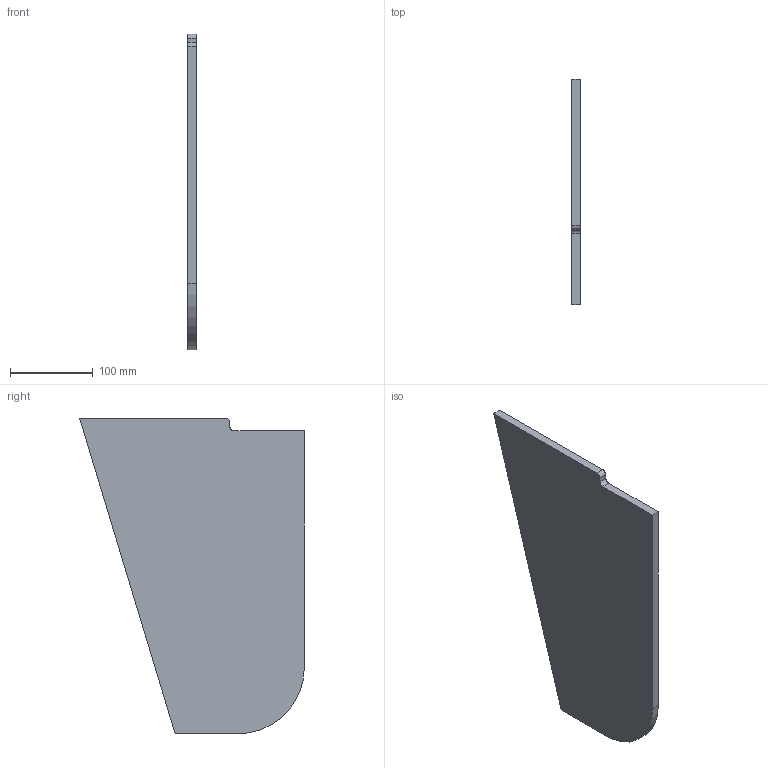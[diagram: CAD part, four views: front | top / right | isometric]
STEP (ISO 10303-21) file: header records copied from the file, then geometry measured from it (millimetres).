
FILE_DESCRIPTION((''),'2;1');
FILE_NAME('OS1359','2021-01-27T',('smide'),(''),'CREO PARAMETRIC BY PTC INC, 2018360','CREO PARAMETRIC BY PTC INC, 2018360','');
FILE_SCHEMA(('CONFIG_CONTROL_DESIGN'));
Length unit declared in the file: millimetre
Products named in the file (1): OS1359
Bounding box: 10 x 271.42 x 381.26 mm (x, y, z)
Volume: 787901.2 mm3; surface area: 169265.5 mm2
Topology: 1 solids, 1 shells, 11 faces, 27 edges, 18 vertices
Faces by surface type: plane 8, cylinder 3
Entity records: 369 total; most frequent: CARTESIAN_POINT 57, DIRECTION 57, ORIENTED_EDGE 54, EDGE_CURVE 27, VECTOR 21, LINE 21, AXIS2_PLACEMENT_3D 18, VERTEX_POINT 18
